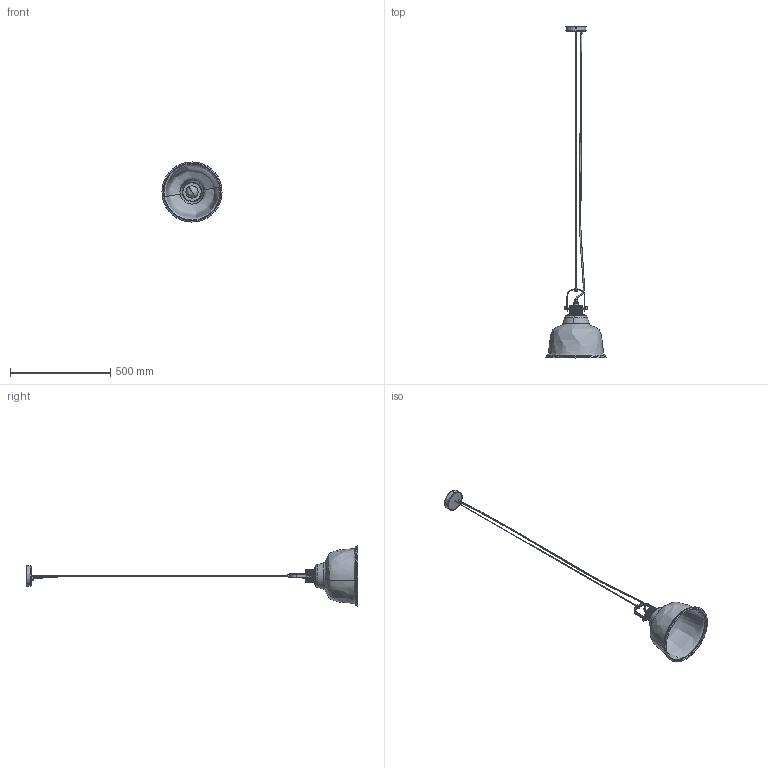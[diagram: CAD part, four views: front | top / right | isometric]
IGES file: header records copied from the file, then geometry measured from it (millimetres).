
Start section: SolidWorks IGES file using analytic representation for surfaces
Global section: file name: F:\GABRYSIA\MODELE 3D\AMALFI_8381_8380_WWW\AMALFI_8381_8380.IGS; native system: SolidWorks 2017; preprocessor: SolidWorks 2017; author: Togambi; date: 200713.145850; units: millimetre
Bounding box: 300 x 1656.26 x 300 mm (x, y, z)
Surface area: 515061 mm2 (no closed solid volume)
Topology: 0 solids, 0 shells, 4779 faces, 30147 edges, 30123 vertices
Faces by surface type: bspline 3317, revolution 1462
